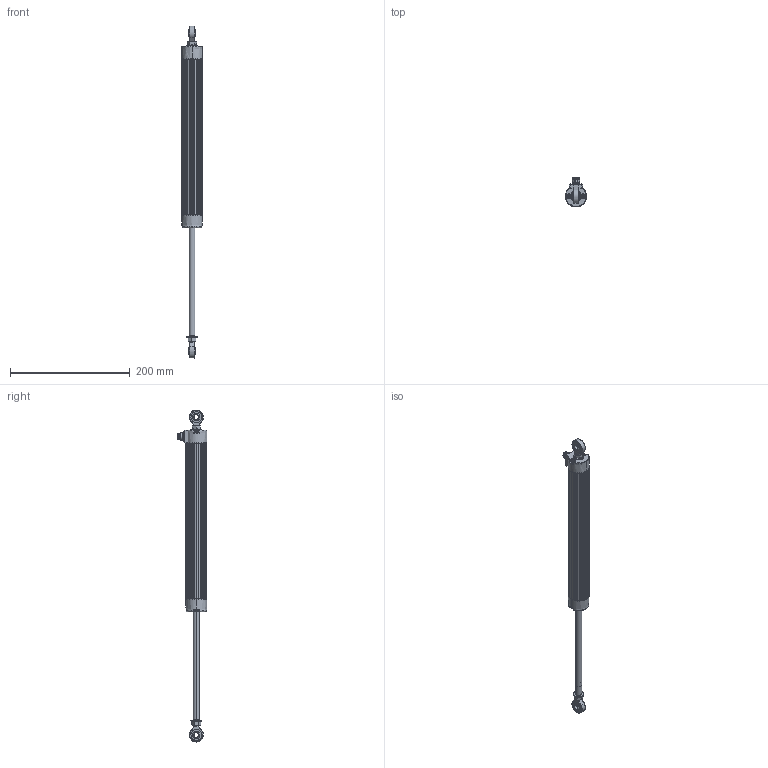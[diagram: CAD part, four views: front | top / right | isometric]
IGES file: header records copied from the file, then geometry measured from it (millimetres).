
Start section: SolidWorks IGES file using analytic representation for surfaces
Global section: file name: I:\Zeichnungen_EK-VM\ZUR BEARBEITUNG\neu_sz\LWG\Bew\0175.IGS; native system: SolidWorks 2009; preprocessor: SolidWorks 2009; author: salzinger; date: 090129.110006; units: millimetre
Bounding box: 35.03 x 49.52 x 553.6 mm (x, y, z)
Volume: 306295.1 mm3; surface area: 72988.2 mm2
Topology: 16 solids, 16 shells, 996 faces, 5312 edges, 6841 vertices
Faces by surface type: revolution 515, plane 294, bspline 187
